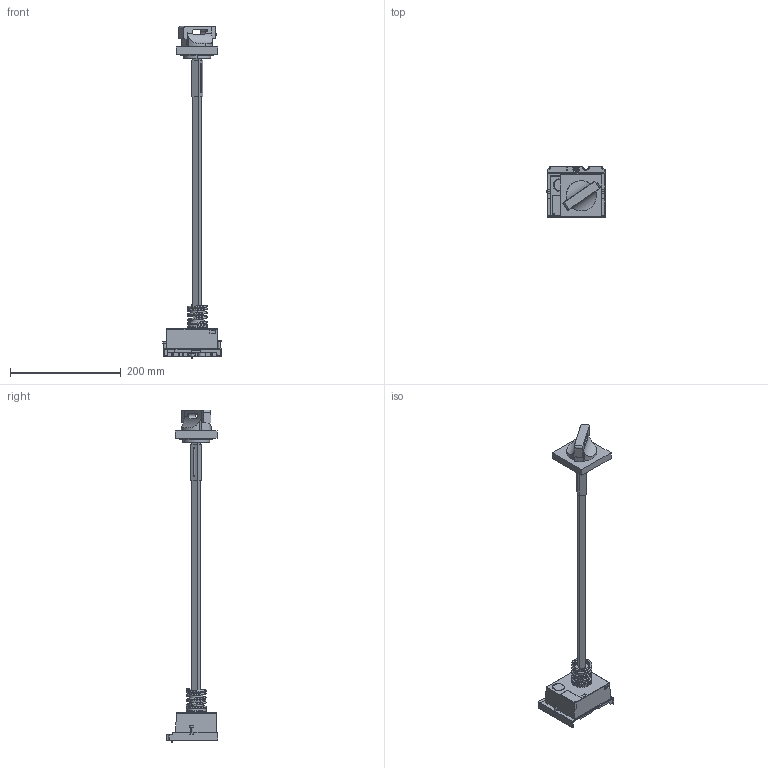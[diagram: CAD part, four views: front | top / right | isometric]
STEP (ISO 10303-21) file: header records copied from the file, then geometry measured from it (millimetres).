
FILE_DESCRIPTION((''),'2;1');
FILE_NAME('LV429343T-3D_ASM','2022-05-13T14:57:53',('SESA530330'),('Schneider-Electric'),'CREO PARAMETRIC BY PTC INC, 2019471','CREO PARAMETRIC BY PTC INC, 2019471','');
FILE_SCHEMA(('CONFIG_CONTROL_DESIGN'));
Length unit declared in the file: millimetre
Products named in the file (3): 125_C1-ERH-3D_1; KNOB_1; LV429343T-3D_ASM
Assembly tree (2 placements, depth 2):
  LV429343T-3D_ASM
    125_C1-ERH-3D_1
    KNOB_1
Bounding box: 105.62 x 92 x 598.38 mm (x, y, z)
Volume: 266286.9 mm3; surface area: 114420.5 mm2
Topology: 2 solids, 2 shells, 388 faces, 1100 edges, 740 vertices
Faces by surface type: plane 277, cylinder 86, extrusion 15, bspline 7, cone 2, torus 1
Entity records: 14968 total; most frequent: CARTESIAN_POINT 4733, ORIENTED_EDGE 2200, DIRECTION 1974, EDGE_CURVE 1100, VECTOR 810, LINE 795, VERTEX_POINT 740, AXIS2_PLACEMENT_3D 582
